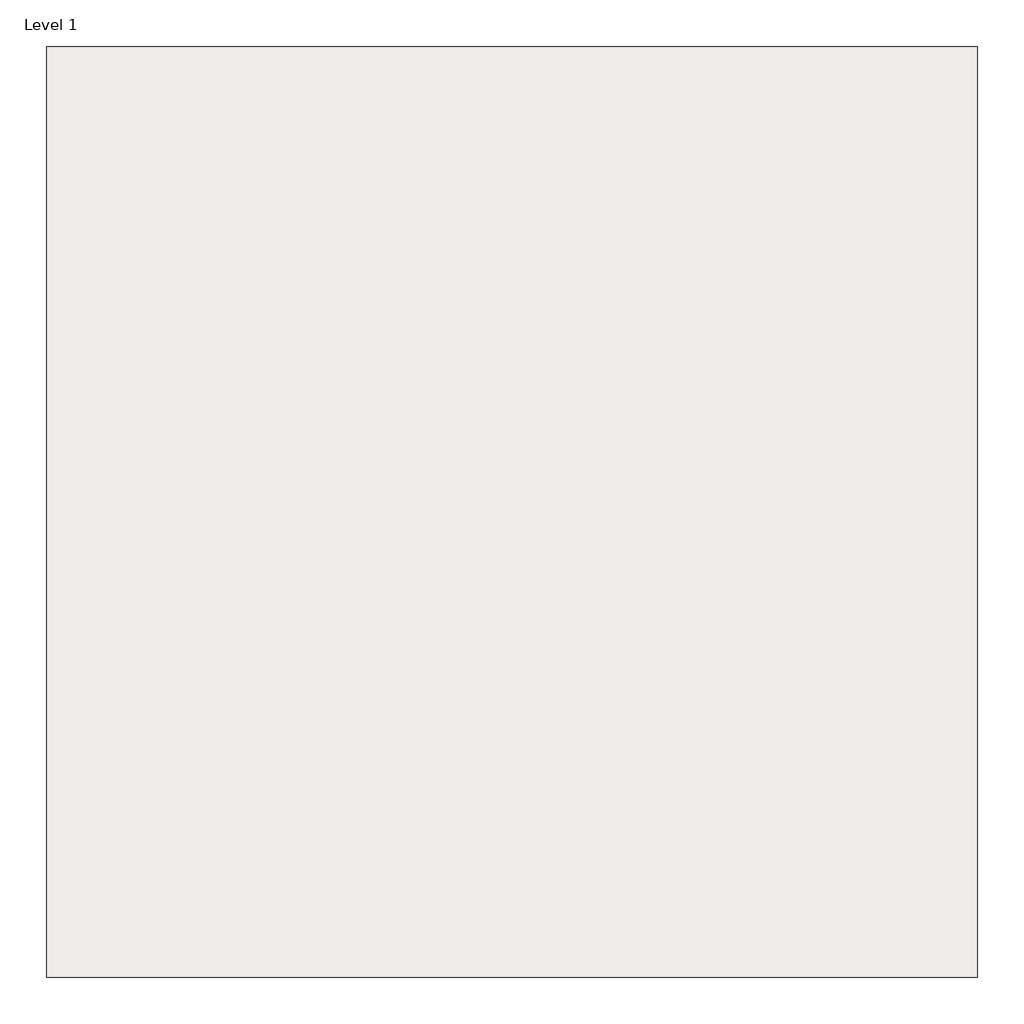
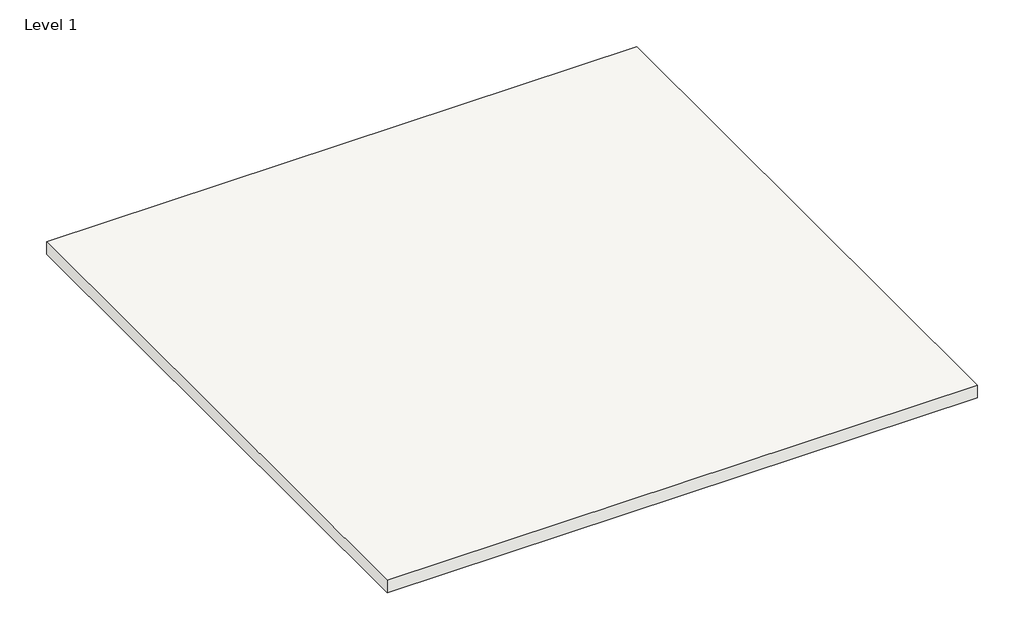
# One storey: 1 slab.
"""IFC4 building model written with IfcOpenShell, lengths in millimetres."""

from ifc_helpers import new_model, si_unit, frame, origin, place, context, project, spatial, polyline, outline, extrude, element, save

model = new_model("IFC4")

# Units and contexts
model_context = context("Model", 3, world=origin())
ifc_project = project(units=[si_unit("LENGTHUNIT", "METRE", prefix="MILLI")], contexts=[model_context])

# Site, building, storey
site = spatial("IfcSite", under=ifc_project)
building = spatial("IfcBuilding", under=site)
storey = spatial("IfcBuildingStorey", under=building, Name="Level 1", Elevation=4000.0)

# Slab
placement = place(None, origin())
element("IfcSlab", 1, ObjectType="NBS_IKOPLC_ReinforcedBitumenMembraneWarmRoofCoveringSystems_IKOUltraMachTwoFlatRoofingSystems", at=placement, inside=storey, context=model_context, shape_type="SweptSolid", body=[
    extrude(outline(polyline([(0.0, -3100.0), (2500.0, -3100.0), (2500.0, -5600.0), (0.0, -5600.0), (0.0, -3100.0)])), frame((0.0, 0.0, 4000.0), z_axis=(0.0, 0.0, 1.0), x_axis=(1.0, 0.0, 0.0)), (0.0, 0.0, 1.0), 56.0),
])

save(model, "model.ifc")
